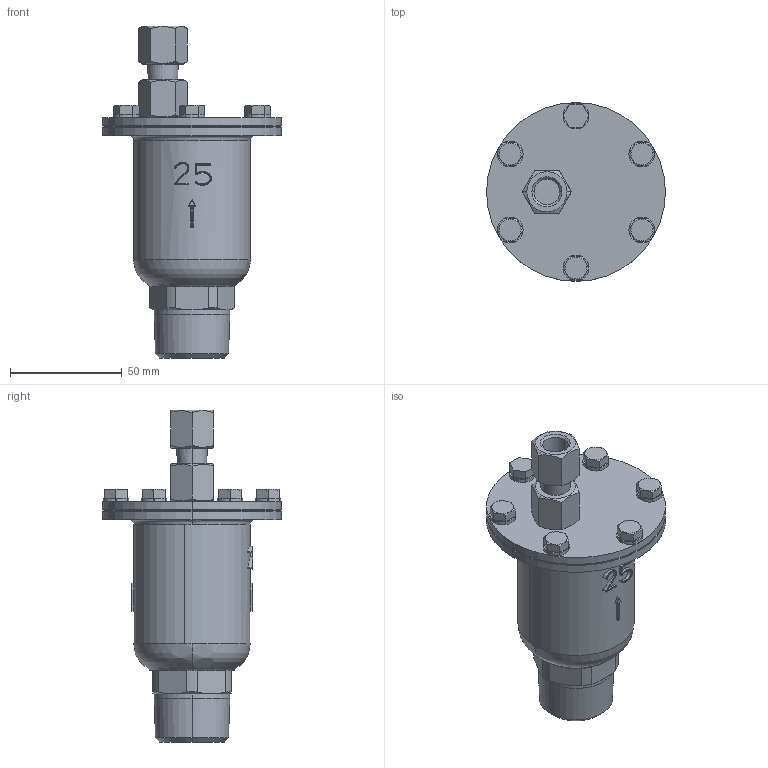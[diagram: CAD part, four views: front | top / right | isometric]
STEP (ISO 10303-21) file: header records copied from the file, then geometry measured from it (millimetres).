
FILE_DESCRIPTION( (''), '2;1');
FILE_NAME ('PC1056.968.TA-16CVS(25A)_457.stp','2024-08-29T13:45:52',(''),(''),'spGate 19.8.4 (****-****-****-****)','','');
FILE_SCHEMA (('AUTOMOTIVE_DESIGN'));
Length unit declared in the file: millimetre
Bounding box: 80 x 80 x 148.5 mm (x, y, z)
Volume: 213339.9 mm3; surface area: 32281.6 mm2
Topology: 1 solids, 1 shells, 277 faces, 705 edges, 447 vertices
Faces by surface type: plane 135, cylinder 80, bspline 62
Entity records: 15780 total; most frequent: CARTESIAN_POINT 3981, ORIENTED_EDGE 1410, DIRECTION 1138, COLOUR_RGB 983, PRESENTATION_STYLE_ASSIGNMENT 983, STYLED_ITEM 983, EDGE_CURVE 705, DRAUGHTING_PRE_DEFINED_CURVE_FONT 705
